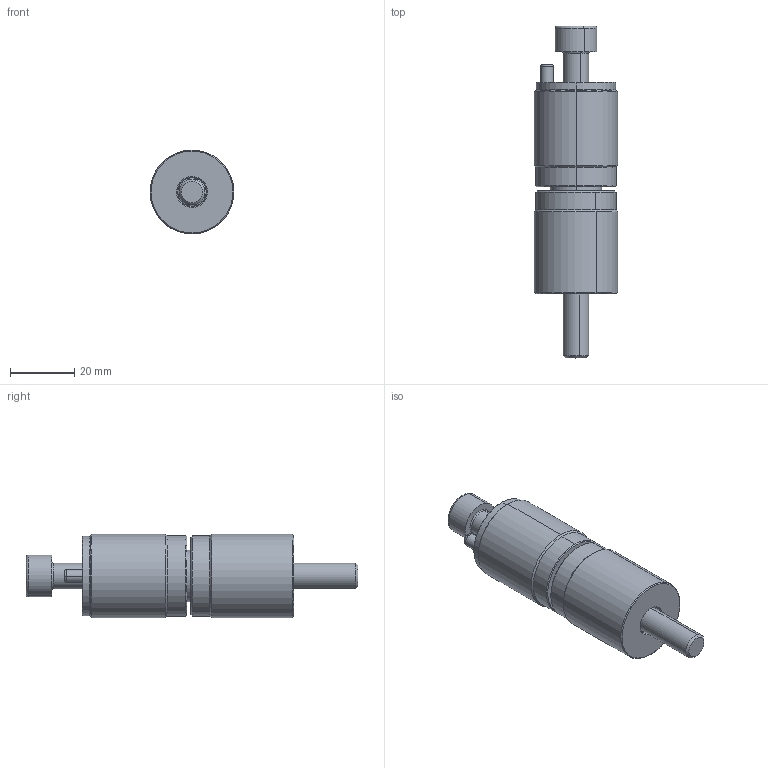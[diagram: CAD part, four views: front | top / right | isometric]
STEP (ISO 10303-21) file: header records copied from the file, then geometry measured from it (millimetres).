
FILE_DESCRIPTION (( 'STEP AP214' ), '1' );
FILE_NAME ('PR263230.STEP', '2016-05-20T06:44:27', ( '' ), ( '' ), 'SwSTEP 2.0', 'SolidWorks 2015', '' );
FILE_SCHEMA (( 'AUTOMOTIVE_DESIGN' ));
Length unit declared in the file: millimetre
Products named in the file (12): DIN6325 Ø4X15_Parallel Pin ISO 8734 - 4 x 16 - A - St; 9PR263230-5; 9PR263230-2; 3MUELLE-PR_Comprimido; 9PR263230-3; 9PR263230-1; 9PR263230-4; 9PR263230_Cerrado; 9PR263230-6; PR263230; 3IMAN4X2-80; 1DIN912825_DIN 912 M8 x 25 --- 25C
Assembly tree (16 placements, depth 3):
  PR263230
    1DIN912825_DIN 912 M8 x 25 --- 25C  x2
    3IMAN4X2-80
    3MUELLE-PR_Comprimido
    9PR263230_Cerrado
      9PR263230-1
      9PR263230-2
      9PR263230-3
      9PR263230-4  x5
      9PR263230-5
      9PR263230-6
      DIN6325 Ø4X15_Parallel Pin ISO 8734 - 4 x 16 - A - St
Bounding box: 26 x 103.17 x 26 mm (x, y, z)
Volume: 33976.5 mm3; surface area: 17871.6 mm2
Topology: 15 solids, 15 shells, 303 faces, 723 edges, 445 vertices
Faces by surface type: cylinder 114, plane 75, cone 74, torus 24, sphere 12, bspline 4
Entity records: 10245 total; most frequent: CARTESIAN_POINT 3371, DIRECTION 1309, ORIENTED_EDGE 1250, EDGE_CURVE 625, AXIS2_PLACEMENT_3D 542, VERTEX_POINT 386, EDGE_LOOP 299, ADVANCED_FACE 268
